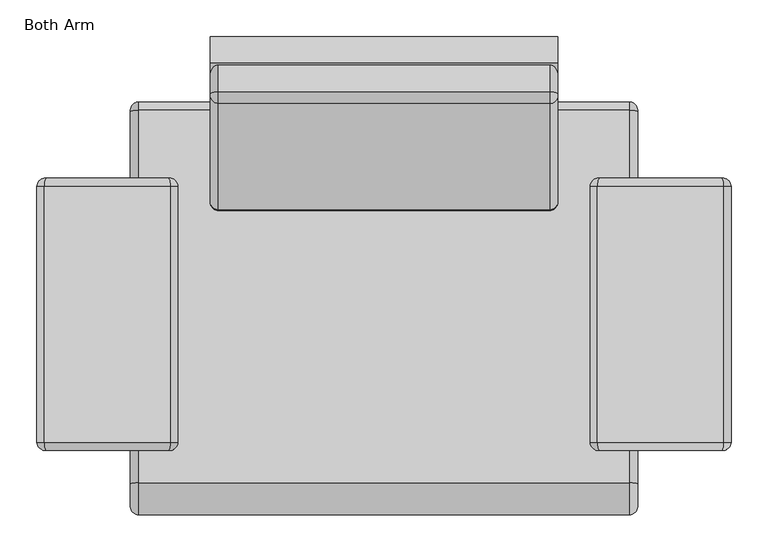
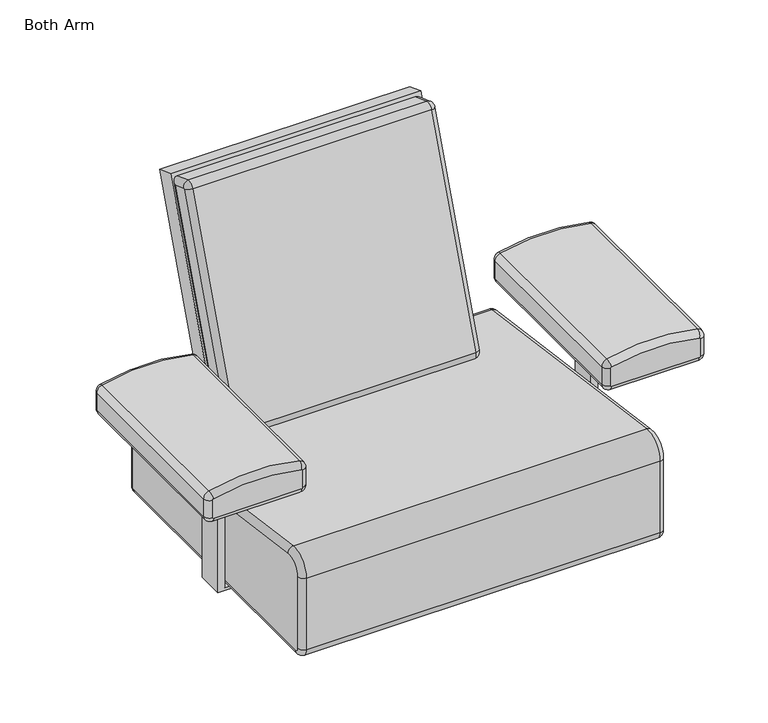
"""IFC4 building model written with IfcOpenShell, lengths in millimetres: furniture geometry, Steelcase Coalesse - Sidewalk - Seating - Collaborative Chair : Both Arm."""

from ifc_helpers import new_model, si_unit, point, frame, origin, place, context, project, spatial, polyline, circle_curve, ellipse_curve, trimmed, outline, extrude, source, transform, mapped, element, save
from ifc_brep_helpers import plane_surface, cylinder_surface, revolved_surface, advanced_brep


def both_arm_b7a4a050(model_context):
    return source(origin(), model_context, "Body", "SolidModel", [
        advanced_brep(
        [(122.9089794, 412.7742549, 335.1190448), (122.9089794, 414.1472627, 333.546102), (122.9089794, 414.1472627, 228.6), (122.9089794, 412.5597627, 227.0125), (122.9089794, -114.4902373, 227.0125), (122.9089794, -122.4277373, 234.95), (122.9089794, -122.4277373, 377.1837519), (122.9089794, -91.7938701, 403.9237811), (808.7089794, -91.7938701, 403.9237811), (808.7089794, -122.4277373, 377.1837519), (808.7089794, -122.4277373, 234.95), (808.7089794, -114.4902373, 227.0125), (808.7089794, 412.5597627, 227.0125), (808.7089794, 414.1472627, 228.6), (808.7089794, 414.1472627, 333.546102), (808.7089794, 412.7742549, 335.1190448), (797.5964794, -90.2924248, 414.9343814), (797.5964794, 414.2757002, 346.1296451), (134.0214794, 414.2757002, 346.1296451), (134.0214794, -90.2924248, 414.9343814), (797.5964794, 425.2597627, 333.546102), (134.0214794, 425.2597627, 333.546102), (797.5964794, 425.2597627, 228.6), (134.0214794, 425.2597627, 228.6), (797.5964794, 412.5597627, 215.9), (134.0214794, 412.5597627, 215.9), (797.5964794, -114.4902373, 215.9), (134.0214794, -114.4902373, 215.9), (797.5964794, -133.5402373, 234.95), (134.0214726, -133.5402373, 234.95), (797.5964794, -133.5402373, 377.1837519), (134.0214794, -133.5402373, 377.1837519)],
        [
            (0, 1, circle_curve(frame((122.9089794, 412.5597627, 333.546102), z_axis=(-1.0, 0.0, 0.0), x_axis=(0.0, 0.13511318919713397, 0.9908301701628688)), 1.5875)),
            (1, 2),
            (2, 3, circle_curve(frame((122.9089794, 412.5597627, 228.6), z_axis=(-1.0, 0.0, 0.0), x_axis=(0.0, 1.0, 0.0)), 1.5875)),
            (3, 4),
            (4, 5, circle_curve(frame((122.9089794, -114.4902373, 234.95), z_axis=(-1.0, 0.0, 0.0), x_axis=(0.0, 0.0, -1.0)), 7.9375)),
            (5, 6),
            (6, 7, circle_curve(frame((122.9089794, -95.4402373, 377.1837519), z_axis=(-1.0, 0.0, 0.0), x_axis=(0.0, -1.0, 0.0)), 26.9875)),
            (7, 0),
            (8, 9, circle_curve(frame((808.7089794, -95.4402373, 377.1837519), z_axis=(1.0, 0.0, 0.0), x_axis=(0.0, 0.13511318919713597, 0.9908301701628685)), 26.9875)),
            (9, 10),
            (10, 11, circle_curve(frame((808.7089794, -114.4902373, 234.95), z_axis=(1.0, 0.0, 0.0), x_axis=(0.0, -1.0, 0.0)), 7.9375)),
            (11, 12),
            (12, 13, circle_curve(frame((808.7089794, 412.5597627, 228.6), z_axis=(1.0, 0.0, 0.0), x_axis=(0.0, 0.0, -1.0)), 1.5875)),
            (13, 14),
            (14, 15, circle_curve(frame((808.7089794, 412.5597627, 333.546102), z_axis=(1.0, 0.0, 0.0), x_axis=(0.0, 1.0, 0.0)), 1.5875)),
            (15, 8),
            (16, 17),
            (17, 18),
            (18, 19),
            (19, 16),
            (17, 20, circle_curve(frame((797.5964794, 412.5597627, 333.546102), z_axis=(-1.0, 0.0, 0.0), x_axis=(0.0, -1.0, 0.0)), 12.7)),
            (20, 21),
            (21, 18, circle_curve(frame((134.0214794, 412.5597627, 333.546102), z_axis=(1.0, 0.0, 0.0), x_axis=(0.0, -1.0, 0.0)), 12.7)),
            (20, 22),
            (22, 23),
            (23, 21),
            (22, 24, circle_curve(frame((797.5964794, 412.5597627, 228.6), z_axis=(-1.0, 0.0, 0.0), x_axis=(0.0, -1.0, 0.0)), 12.7)),
            (24, 25),
            (25, 23, circle_curve(frame((134.0214794, 412.5597627, 228.6), z_axis=(1.0, 0.0, 0.0), x_axis=(0.0, -1.0, 0.0)), 12.7)),
            (24, 26),
            (26, 27),
            (27, 25),
            (26, 28, circle_curve(frame((797.5964794, -114.4902373, 234.95), z_axis=(-1.0, 0.0, 0.0), x_axis=(0.0, -1.0, 0.0)), 19.05)),
            (28, 29),
            (29, 27, circle_curve(frame((134.0214794, -114.4902373, 234.95), z_axis=(1.0, 0.0, 0.0), x_axis=(0.0, -1.0, 0.0)), 19.05)),
            (28, 30),
            (30, 31),
            (31, 29),
            (30, 16, circle_curve(frame((797.5964794, -95.4402373, 377.1837519), z_axis=(-1.0, 0.0, 0.0), x_axis=(0.0, -1.0, 0.0)), 38.1)),
            (19, 31, circle_curve(frame((134.0214794, -95.4402373, 377.1837519), z_axis=(1.0, 0.0, 0.0), x_axis=(0.0, -1.0, 0.0)), 38.1)),
            (30, 9, circle_curve(frame((797.5964794, -122.4277373, 377.1837519), z_axis=(0.0, 0.0, 0.9999999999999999), x_axis=(0.0, -0.9999999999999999, 0.0)), 11.1125)),
            (8, 16, circle_curve(frame((797.5964794, -91.7938701, 403.9237811), z_axis=(0.0, -0.9908301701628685, 0.13511318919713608), x_axis=(0.0, 0.13511318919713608, 0.9908301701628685)), 11.1125)),
            (28, 10, circle_curve(frame((797.5964794, -122.4277373, 234.95), z_axis=(0.0, 0.0, 1.0), x_axis=(0.0, -1.0, 0.0)), 11.1125)),
            (26, 11, circle_curve(frame((797.5964794, -114.4902373, 227.0125), z_axis=(0.0, -1.0, 0.0), x_axis=(0.0, 0.0, -1.0)), 11.1125)),
            (24, 12, circle_curve(frame((797.5964794, 412.5597627, 227.0125), z_axis=(0.0, -1.0, 0.0), x_axis=(0.0, 0.0, -1.0)), 11.1125)),
            (22, 13, circle_curve(frame((797.5964794, 414.1472627, 228.6), z_axis=(0.0, 0.0, -1.0), x_axis=(0.0, 1.0, 0.0)), 11.1125)),
            (20, 14, circle_curve(frame((797.5964794, 414.1472627, 333.546102), z_axis=(0.0, 0.0, -1.0), x_axis=(0.0, 1.0, 0.0)), 11.1125)),
            (17, 15, circle_curve(frame((797.5964794, 412.7742549, 335.1190448), z_axis=(0.0, 0.9908301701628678, -0.1351131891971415), x_axis=(0.0, 0.1351131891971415, 0.9908301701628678)), 11.1125)),
            (21, 1, circle_curve(frame((134.0214794, 414.1472627, 333.546102), z_axis=(0.0, 0.0, 1.0), x_axis=(0.0, -1.0, 0.0)), 11.1125)),
            (0, 18, circle_curve(frame((134.0214794, 412.7742549, 335.1190448), z_axis=(0.0, 0.9908301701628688, -0.13511318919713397), x_axis=(0.0, -0.13511318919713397, -0.9908301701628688)), 11.1125)),
            (23, 2, circle_curve(frame((134.0214794, 414.1472627, 228.6), z_axis=(0.0, 0.0, 1.0), x_axis=(0.0, -1.0, 0.0)), 11.1125)),
            (25, 3, circle_curve(frame((134.0214794, 412.5597627, 227.0125), z_axis=(0.0, 1.0, 0.0), x_axis=(0.0, 0.0, 1.0)), 11.1125)),
            (27, 4, circle_curve(frame((134.0214794, -114.4902373, 227.0125), z_axis=(0.0, 1.0, 0.0), x_axis=(0.0, 0.0, 1.0)), 11.1125)),
            (29, 5, circle_curve(frame((134.0214794, -122.4277373, 234.95), z_axis=(0.0, 0.0, -1.0), x_axis=(0.0, 1.0, 0.0)), 11.1125)),
            (31, 6, circle_curve(frame((134.0214794, -122.4277373, 377.1837519), z_axis=(0.0, 0.0, -1.0), x_axis=(0.0, 1.0, 0.0)), 11.1125)),
            (19, 7, circle_curve(frame((134.0214794, -91.7938701, 403.9237811), z_axis=(0.0, -0.9908301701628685, 0.1351131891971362), x_axis=(0.0, -0.1351131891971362, -0.9908301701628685)), 11.1125)),
        ],
        [
            plane_surface(frame((122.9089794, 564.9597627, 325.5818208), z_axis=(-1.0000000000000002, 0.0, 0.0), x_axis=(0.0, 0.9908301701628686, -0.1351131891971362))),
            plane_surface(frame((808.7089794, 564.9597627, 325.5818208), z_axis=(1.0000000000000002, 0.0, 0.0), x_axis=(0.0, -0.9908301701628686, 0.1351131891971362))),
            plane_surface(frame((122.9089794, -90.2924248, 414.9343814), z_axis=(0.0, 0.1351131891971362, 0.9908301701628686), x_axis=(1.0, 0.0, 0.0))),
            cylinder_surface(frame((808.7089794, 412.5597627, 333.546102), z_axis=(-1.0, 0.0, 0.0), x_axis=(0.0, -1.0, 0.0)), 12.7),
            plane_surface(frame((122.9089794, 425.2597627, 333.546102), z_axis=(0.0, 1.0, 0.0), x_axis=(1.0, 0.0, 0.0))),
            cylinder_surface(frame((808.7089794, 412.5597627, 228.6), z_axis=(-1.0, 0.0, 0.0), x_axis=(0.0, -1.0, 0.0)), 12.7),
            plane_surface(frame((122.9089794, 412.5597627, 215.9), z_axis=(0.0, 0.0, -1.0), x_axis=(1.0, 0.0, 0.0))),
            cylinder_surface(frame((808.7089794, -114.4902373, 234.95), z_axis=(-1.0, 0.0, 0.0), x_axis=(0.0, -1.0, 0.0)), 19.05),
            plane_surface(frame((122.9089794, -133.5402373, 234.95), z_axis=(0.0, -1.0, 0.0), x_axis=(1.0, 0.0, 0.0))),
            cylinder_surface(frame((808.7089794, -95.4402373, 377.1837519), z_axis=(-1.0, 0.0, 0.0), x_axis=(0.0, -1.0, 0.0)), 38.1),
            revolved_surface(trimmed(ellipse_curve(frame((797.5964794, -91.7938701, 403.9237811), z_axis=(0.0, 0.9908301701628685, -0.13511318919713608), x_axis=(0.0, 0.13511318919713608, 0.9908301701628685)), 11.1125, 11.1125), [point((797.5964794, -90.2924248, 414.9343814))], [point((808.7089794, -91.7938701, 403.9237811))], True, "CARTESIAN"), (808.7089794, -95.4402373, 377.1837519), (1.0, 0.0, 0.0)),
            cylinder_surface(frame((797.5964794, -122.4277373, 377.1837519), z_axis=(0.0, 0.0, -1.0), x_axis=(0.0, -1.0, 0.0)), 11.1125),
            revolved_surface(trimmed(ellipse_curve(frame((797.5964794, -122.4277373, 234.95), z_axis=(0.0, 0.0, 1.0), x_axis=(0.0, -1.0, 0.0)), 11.1125, 11.1125), [point((797.5964794, -133.5402373, 234.95))], [point((808.7089794, -122.4277373, 234.95))], True, "CARTESIAN"), (808.7089794, -114.4902373, 234.95), (1.0, 0.0, 0.0)),
            cylinder_surface(frame((797.5964794, -114.4902373, 227.0125), z_axis=(0.0, 1.0, 0.0), x_axis=(0.0, 0.0, -1.0)), 11.1125),
            revolved_surface(trimmed(ellipse_curve(frame((797.5964794, 412.5597627, 227.0125), z_axis=(0.0, -1.0, 0.0), x_axis=(0.0, 0.0, -1.0)), 11.1125, 11.1125), [point((797.5964794, 412.5597627, 215.9))], [point((808.7089794, 412.5597627, 227.0125))], True, "CARTESIAN"), (808.7089794, 412.5597627, 228.6), (1.0, 0.0, 0.0)),
            cylinder_surface(frame((797.5964794, 414.1472627, 228.6), z_axis=(0.0, 0.0, 1.0), x_axis=(0.0, 1.0, 0.0)), 11.1125),
            revolved_surface(trimmed(ellipse_curve(frame((797.5964794, 414.1472627, 333.546102), z_axis=(0.0, 0.0, -1.0), x_axis=(0.0, 1.0, 0.0)), 11.1125, 11.1125), [point((797.5964794, 425.2597627, 333.546102))], [point((808.7089794, 414.1472627, 333.546102))], True, "CARTESIAN"), (808.7089794, 412.5597627, 333.546102), (1.0, 0.0, 0.0)),
            cylinder_surface(frame((797.5964794, 412.7742549, 335.1190448), z_axis=(0.0, -0.9908301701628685, 0.13511318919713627), x_axis=(0.0, 0.13511318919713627, 0.9908301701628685)), 11.1125),
            revolved_surface(trimmed(ellipse_curve(frame((134.0214794, 412.7742549, 335.1190448), z_axis=(0.0, -0.9908301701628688, 0.13511318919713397), x_axis=(0.0, -0.13511318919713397, -0.9908301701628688)), 11.1125, 11.1125), [point((134.0214794, 414.2757002, 346.1296451))], [point((122.9089794, 412.7742549, 335.1190448))], True, "CARTESIAN"), (122.9089794, 412.5597627, 333.546102), (-1.0, 0.0, 0.0)),
            cylinder_surface(frame((134.0214794, 414.1472627, 333.546102), z_axis=(0.0, 0.0, -1.0), x_axis=(0.0, -1.0, 0.0)), 11.1125),
            revolved_surface(trimmed(ellipse_curve(frame((134.0214794, 414.1472627, 228.6), z_axis=(0.0, 0.0, 1.0), x_axis=(0.0, -1.0, 0.0)), 11.1125, 11.1125), [point((134.0214794, 425.2597627, 228.6))], [point((122.9089794, 414.1472627, 228.6))], True, "CARTESIAN"), (122.9089794, 412.5597627, 228.6), (-1.0, 0.0, 0.0)),
            cylinder_surface(frame((134.0214794, 412.5597627, 227.0125), z_axis=(0.0, -1.0, 0.0), x_axis=(0.0, 0.0, 1.0)), 11.1125),
            revolved_surface(trimmed(ellipse_curve(frame((134.0214794, -114.4902373, 227.0125), z_axis=(0.0, 1.0, 0.0), x_axis=(0.0, 0.0, 1.0)), 11.1125, 11.1125), [point((134.0214794, -114.4902373, 215.9))], [point((122.9089794, -114.4902373, 227.0125))], True, "CARTESIAN"), (122.9089794, -114.4902373, 234.95), (-1.0, 0.0, 0.0)),
            cylinder_surface(frame((134.0214794, -122.4277373, 234.95), z_axis=(0.0, 0.0, 1.0), x_axis=(0.0, 1.0, 0.0)), 11.1125),
            revolved_surface(trimmed(ellipse_curve(frame((134.0214794, -122.4277373, 377.1837519), z_axis=(0.0, 0.0, -1.0), x_axis=(0.0, 1.0, 0.0)), 11.1125, 11.1125), [point((134.0214794, -133.5402373, 377.1837519))], [point((122.9089794, -122.4277373, 377.1837519))], True, "CARTESIAN"), (122.9089794, -95.4402373, 377.1837519), (-1.0, 0.0, 0.0)),
            cylinder_surface(frame((134.0214794, -91.7938701, 403.9237811), z_axis=(0.0, 0.9908301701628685, -0.1351131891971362), x_axis=(0.0, -0.1351131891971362, -0.9908301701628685)), 11.1125),
        ],
        [
            (0, [[1, 2, 3, 4, 5, 6, 7, 8]]),
            (1, [[9, 10, 11, 12, 13, 14, 15, 16]]),
            (2, [[17, 18, 19, 20]]),
            (3, [[21, 22, 23, -18]]),
            (4, [[24, 25, 26, -22]]),
            (5, [[27, 28, 29, -25]]),
            (6, [[30, 31, 32, -28]]),
            (7, [[33, 34, 35, -31]]),
            (8, [[36, 37, 38, -34]]),
            (9, [[39, -20, 40, -37]]),
            (10, [[41, -9, 42, -39]]),
            (11, [[-41, -36, 43, -10]]),
            (12, [[-43, -33, 44, -11]]),
            (13, [[-44, -30, 45, -12]]),
            (14, [[-45, -27, 46, -13]]),
            (15, [[-46, -24, 47, -14]]),
            (16, [[-47, -21, 48, -15]]),
            (17, [[-42, -16, -48, -17]]),
            (18, [[49, -1, 50, -23]]),
            (19, [[-49, -26, 51, -2]]),
            (20, [[-51, -29, 52, -3]]),
            (21, [[-52, -32, 53, -4]]),
            (22, [[-53, -35, 54, -5]]),
            (23, [[-54, -38, 55, -6]]),
            (24, [[-55, -40, 56, -7]]),
            (25, [[-50, -8, -56, -19]]),
        ],
    ),
        advanced_brep(
        [(923.9725321, -46.3480901, 523.5679776), (922.7611862, -46.3480901, 525.1102695), (756.908878, -46.3480901, 525.1102695), (755.6975321, -46.3480901, 523.5679776), (755.6975321, -46.3480901, 488.95), (757.2850321, -46.3480901, 487.3625), (922.3850321, -46.3480901, 487.3625), (923.9725321, -46.3480901, 488.95), (755.6975321, 321.9519099, 523.5679776), (756.908878, 321.9519099, 525.1102695), (922.7611862, 321.9519099, 525.1102695), (923.9725321, 321.9519099, 523.5679776), (923.9725321, 321.9519099, 488.95), (922.3850321, 321.9519099, 487.3625), (757.2850321, 321.9519099, 487.3625), (755.6975321, 321.9519099, 488.95), (922.3850321, -35.2355901, 476.25), (757.2850321, -35.2355901, 476.25), (757.2850321, 310.8394099, 476.25), (922.3850321, 310.8394099, 476.25), (935.0850321, -35.2355901, 488.95), (935.0850321, 310.8394099, 488.95), (935.0850321, -35.2355901, 523.5679776), (935.0850321, 310.8394099, 523.5679776), (925.394265, -35.2355901, 535.9063129), (925.394265, 310.8394099, 535.9063129), (754.2757993, -35.2355901, 535.9063129), (754.2757993, 310.8394099, 535.9063129), (744.5850321, -35.2355901, 523.5679776), (744.5850321, 310.8394099, 523.5679776), (744.5850321, -35.2355901, 488.95), (744.5850321, 310.8394099, 488.95)],
        [
            (0, 1, circle_curve(frame((922.3850321, -46.3480901, 523.5679776), z_axis=(0.0, -1.0, 0.0), x_axis=(0.23694746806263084, 0.0, 0.9715224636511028)), 1.5875)),
            (1, 2, circle_curve(frame((839.8350321, -46.3480901, 185.0997929), z_axis=(0.0, -1.0, 0.0), x_axis=(-0.23694746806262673, 0.0, 0.971522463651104)), 349.9769581)),
            (2, 3, circle_curve(frame((757.2850321, -46.3480901, 523.5679776), z_axis=(0.0, -1.0, 0.0), x_axis=(-1.0, 0.0, 0.0)), 1.5875)),
            (3, 4),
            (4, 5, circle_curve(frame((757.2850321, -46.3480901, 488.95), z_axis=(0.0, -1.0, 0.0), x_axis=(0.0, 0.0, -1.0)), 1.5875)),
            (5, 6),
            (6, 7, circle_curve(frame((922.3850321, -46.3480901, 488.95), z_axis=(0.0, -1.0, 0.0), x_axis=(1.0, 0.0, 0.0)), 1.5875)),
            (7, 0),
            (8, 9, circle_curve(frame((757.2850321, 321.9519099, 523.5679776), z_axis=(0.0, 1.0, 0.0), x_axis=(-0.2369474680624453, 0.0, 0.9715224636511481)), 1.5875)),
            (9, 10, circle_curve(frame((839.8350321, 321.9519099, 185.0997929), z_axis=(0.0, 1.0, 0.0), x_axis=(0.23694746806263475, 0.0, 0.971522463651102)), 349.9769581)),
            (10, 11, circle_curve(frame((922.3850321, 321.9519099, 523.5679776), z_axis=(0.0, 1.0, 0.0), x_axis=(1.0, 0.0, 0.0)), 1.5875)),
            (11, 12),
            (12, 13, circle_curve(frame((922.3850321, 321.9519099, 488.95), z_axis=(0.0, 1.0, 0.0), x_axis=(0.0, 0.0, -1.0)), 1.5875)),
            (13, 14),
            (14, 15, circle_curve(frame((757.2850321, 321.9519099, 488.95), z_axis=(0.0, 1.0, 0.0), x_axis=(-1.0, 0.0, 0.0)), 1.5875)),
            (15, 8),
            (16, 17),
            (17, 18),
            (18, 19),
            (19, 16),
            (20, 16, circle_curve(frame((922.3850321, -35.2355901, 488.95), z_axis=(0.0, 1.0, 0.0), x_axis=(-1.0, 0.0, 0.0)), 12.7)),
            (19, 21, circle_curve(frame((922.3850321, 310.8394099, 488.95), z_axis=(0.0, -1.0, 0.0), x_axis=(-1.0, 0.0, 0.0)), 12.7)),
            (21, 20),
            (22, 20),
            (21, 23),
            (23, 22),
            (24, 22, circle_curve(frame((922.3850321, -35.2355901, 523.5679776), z_axis=(0.0, 1.0, 0.0), x_axis=(-1.0, 0.0, 0.0)), 12.7)),
            (23, 25, circle_curve(frame((922.3850321, 310.8394099, 523.5679776), z_axis=(0.0, -1.0, 0.0), x_axis=(-1.0, 0.0, 0.0)), 12.7)),
            (25, 24),
            (26, 24, circle_curve(frame((839.8350321, -35.2355901, 185.0997929), z_axis=(0.0, 1.0, 0.0), x_axis=(-1.0, 0.0, 0.0)), 361.0894581)),
            (25, 27, circle_curve(frame((839.8350321, 310.8394099, 185.0997929), z_axis=(0.0, -1.0, 0.0), x_axis=(-1.0, 0.0, 0.0)), 361.0894581)),
            (27, 26),
            (28, 26, circle_curve(frame((757.2850321, -35.2355901, 523.5679776), z_axis=(0.0, 1.0, 0.0), x_axis=(-1.0, 0.0, 0.0)), 12.7)),
            (27, 29, circle_curve(frame((757.2850321, 310.8394099, 523.5679776), z_axis=(0.0, -1.0, 0.0), x_axis=(-1.0, 0.0, 0.0)), 12.7)),
            (29, 28),
            (30, 28),
            (29, 31),
            (31, 30),
            (17, 30, circle_curve(frame((757.2850321, -35.2355901, 488.95), z_axis=(0.0, 1.0, 0.0), x_axis=(-1.0, 0.0, 0.0)), 12.7)),
            (31, 18, circle_curve(frame((757.2850321, 310.8394099, 488.95), z_axis=(0.0, -1.0, 0.0), x_axis=(-1.0, 0.0, 0.0)), 12.7)),
            (0, 22, circle_curve(frame((923.9725321, -35.2355901, 523.5679776), z_axis=(0.0, 0.0, 1.0), x_axis=(-1.0, 0.0, 0.0)), 11.1125)),
            (24, 1, circle_curve(frame((922.7611862, -35.2355901, 525.1102695), z_axis=(0.9715224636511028, 0.0, -0.23694746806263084), x_axis=(-0.23694746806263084, 0.0, -0.9715224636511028)), 11.1125)),
            (7, 20, circle_curve(frame((923.9725321, -35.2355901, 488.95), z_axis=(0.0, 0.0, 1.0), x_axis=(-1.0, 0.0, 0.0)), 11.1125)),
            (6, 16, circle_curve(frame((922.3850321, -35.2355901, 487.3625), z_axis=(1.0, 0.0, 0.0), x_axis=(0.0, 0.0, 1.0)), 11.1125)),
            (5, 17, circle_curve(frame((757.2850321, -35.2355901, 487.3625), z_axis=(1.0, 0.0, 0.0), x_axis=(0.0, 0.0, 1.0)), 11.1125)),
            (4, 30, circle_curve(frame((755.6975321, -35.2355901, 488.95), z_axis=(0.0, 0.0, -1.0), x_axis=(1.0, 0.0, 0.0)), 11.1125)),
            (3, 28, circle_curve(frame((755.6975321, -35.2355901, 523.5679776), z_axis=(0.0, 0.0, -1.0), x_axis=(1.0, 0.0, 0.0)), 11.1125)),
            (2, 26, circle_curve(frame((756.908878, -35.2355901, 525.1102695), z_axis=(-0.9715224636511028, 0.0, -0.23694746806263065), x_axis=(0.23694746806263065, 0.0, -0.9715224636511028)), 11.1125)),
            (8, 29, circle_curve(frame((755.6975321, 310.8394099, 523.5679776), z_axis=(0.0, 0.0, 1.0), x_axis=(-1.0, 0.0, 0.0)), 11.1125)),
            (27, 9, circle_curve(frame((756.908878, 310.8394099, 525.1102695), z_axis=(-0.9715224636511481, 0.0, -0.23694746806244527), x_axis=(-0.23694746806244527, 0.0, 0.9715224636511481)), 11.1125)),
            (15, 31, circle_curve(frame((755.6975321, 310.8394099, 488.95), z_axis=(0.0, 0.0, 1.0), x_axis=(-1.0, 0.0, 0.0)), 11.1125)),
            (14, 18, circle_curve(frame((757.2850321, 310.8394099, 487.3625), z_axis=(-1.0, 0.0, 0.0), x_axis=(0.0, 0.0, -1.0)), 11.1125)),
            (13, 19, circle_curve(frame((922.3850321, 310.8394099, 487.3625), z_axis=(-1.0, 0.0, 0.0), x_axis=(0.0, 0.0, -1.0)), 11.1125)),
            (12, 21, circle_curve(frame((923.9725321, 310.8394099, 488.95), z_axis=(0.0, 0.0, -1.0), x_axis=(1.0, 0.0, 0.0)), 11.1125)),
            (11, 23, circle_curve(frame((923.9725321, 310.8394099, 523.5679776), z_axis=(0.0, 0.0, -1.0), x_axis=(1.0, 0.0, 0.0)), 11.1125)),
            (10, 25, circle_curve(frame((922.7611862, 310.8394099, 525.1102695), z_axis=(0.9715224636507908, 0.0, -0.23694746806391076), x_axis=(0.23694746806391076, 0.0, 0.9715224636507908)), 11.1125)),
        ],
        [
            plane_surface(frame((935.0850321, -46.3480901, 476.25), z_axis=(0.0, -1.0, 0.0), x_axis=(1.0, 0.0, 0.0))),
            plane_surface(frame((935.0850321, 321.9519099, 476.25), z_axis=(0.0, 1.0, 0.0), x_axis=(-1.0, 0.0, 0.0))),
            plane_surface(frame((757.2850321, -46.3480901, 476.25), z_axis=(0.0, 0.0, -1.0), x_axis=(0.0, 1.0, 0.0))),
            cylinder_surface(frame((922.3850321, 321.9519099, 488.95), z_axis=(0.0, -1.0, 0.0), x_axis=(-1.0, 0.0, 0.0)), 12.7),
            plane_surface(frame((935.0850321, -46.3480901, 488.95), z_axis=(1.0, 0.0, 0.0), x_axis=(0.0, 1.0, 0.0))),
            cylinder_surface(frame((922.3850321, 321.9519099, 523.5679776), z_axis=(0.0, -1.0, 0.0), x_axis=(-1.0, 0.0, 0.0)), 12.7),
            cylinder_surface(frame((839.8350321, 321.9519099, 185.0997929), z_axis=(0.0, -1.0, 0.0), x_axis=(-1.0, 0.0, 0.0)), 361.0894581),
            cylinder_surface(frame((757.2850321, 321.9519099, 523.5679776), z_axis=(0.0, -1.0, 0.0), x_axis=(-1.0, 0.0, 0.0)), 12.7),
            plane_surface(frame((744.5850321, -46.3480901, 523.5679776), z_axis=(-1.0, 0.0, 0.0), x_axis=(0.0, 1.0, 0.0))),
            cylinder_surface(frame((757.2850321, 321.9519099, 488.95), z_axis=(0.0, -1.0, 0.0), x_axis=(-1.0, 0.0, 0.0)), 12.7),
            revolved_surface(trimmed(ellipse_curve(frame((922.7611862, -35.2355901, 525.1102695), z_axis=(-0.9715224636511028, 0.0, 0.23694746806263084), x_axis=(-0.23694746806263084, 0.0, -0.9715224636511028)), 11.1125, 11.1125), [point((922.7611862, -46.3480901, 525.1102695))], [point((925.394265, -35.2355901, 535.9063129))], True, "CARTESIAN"), (922.3850321, -46.3480901, 523.5679776), (0.0, 1.0, 0.0)),
            cylinder_surface(frame((923.9725321, -35.2355901, 523.5679776), z_axis=(0.0, 0.0, -1.0), x_axis=(-1.0, 0.0, 0.0)), 11.1125),
            revolved_surface(trimmed(ellipse_curve(frame((923.9725321, -35.2355901, 488.95), z_axis=(0.0, 0.0, 1.0), x_axis=(-1.0, 0.0, 0.0)), 11.1125, 11.1125), [point((923.9725321, -46.3480901, 488.95))], [point((935.0850321, -35.2355901, 488.95))], True, "CARTESIAN"), (922.3850321, -46.3480901, 488.95), (0.0, 1.0, 0.0)),
            cylinder_surface(frame((922.3850321, -35.2355901, 487.3625), z_axis=(-1.0, 0.0, 0.0), x_axis=(0.0, 0.0, 1.0)), 11.1125),
            revolved_surface(trimmed(ellipse_curve(frame((757.2850321, -35.2355901, 487.3625), z_axis=(1.0, 0.0, 0.0), x_axis=(0.0, 0.0, 1.0)), 11.1125, 11.1125), [point((757.2850321, -46.3480901, 487.3625))], [point((757.2850321, -35.2355901, 476.25))], True, "CARTESIAN"), (757.2850321, -46.3480901, 488.95), (0.0, 1.0, 0.0)),
            cylinder_surface(frame((755.6975321, -35.2355901, 488.95), z_axis=(0.0, 0.0, 1.0), x_axis=(1.0, 0.0, 0.0)), 11.1125),
            revolved_surface(trimmed(ellipse_curve(frame((755.6975321, -35.2355901, 523.5679776), z_axis=(0.0, 0.0, -1.0), x_axis=(1.0, 0.0, 0.0)), 11.1125, 11.1125), [point((755.6975321, -46.3480901, 523.5679776))], [point((744.5850321, -35.2355901, 523.5679776))], True, "CARTESIAN"), (757.2850321, -46.3480901, 523.5679776), (0.0, 1.0, 0.0)),
            revolved_surface(trimmed(ellipse_curve(frame((756.908878, -35.2355901, 525.1102695), z_axis=(-0.971522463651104, 0.0, -0.23694746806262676), x_axis=(0.23694746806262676, 0.0, -0.971522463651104)), 11.1125, 11.1125), [point((756.908878, -46.3480901, 525.1102695))], [point((754.2757993, -35.2355901, 535.9063129))], True, "CARTESIAN"), (839.8350321, -46.3480901, 185.0997929), (0.0, 1.0, 0.0)),
            revolved_surface(trimmed(ellipse_curve(frame((756.908878, 310.8394099, 525.1102695), z_axis=(0.9715224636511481, 0.0, 0.23694746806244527), x_axis=(-0.23694746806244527, 0.0, 0.9715224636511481)), 11.1125, 11.1125), [point((756.908878, 321.9519099, 525.1102695))], [point((754.2757993, 310.8394099, 535.9063129))], True, "CARTESIAN"), (757.2850321, 321.9519099, 523.5679776), (0.0, -1.0, 0.0)),
            cylinder_surface(frame((755.6975321, 310.8394099, 523.5679776), z_axis=(0.0, 0.0, -1.0), x_axis=(-1.0, 0.0, 0.0)), 11.1125),
            revolved_surface(trimmed(ellipse_curve(frame((755.6975321, 310.8394099, 488.95), z_axis=(0.0, 0.0, 1.0), x_axis=(-1.0, 0.0, 0.0)), 11.1125, 11.1125), [point((755.6975321, 321.9519099, 488.95))], [point((744.5850321, 310.8394099, 488.95))], True, "CARTESIAN"), (757.2850321, 321.9519099, 488.95), (0.0, -1.0, 0.0)),
            cylinder_surface(frame((757.2850321, 310.8394099, 487.3625), z_axis=(1.0, 0.0, 0.0), x_axis=(0.0, 0.0, -1.0)), 11.1125),
            revolved_surface(trimmed(ellipse_curve(frame((922.3850321, 310.8394099, 487.3625), z_axis=(-1.0, 0.0, 0.0), x_axis=(0.0, 0.0, -1.0)), 11.1125, 11.1125), [point((922.3850321, 321.9519099, 487.3625))], [point((922.3850321, 310.8394099, 476.25))], True, "CARTESIAN"), (922.3850321, 321.9519099, 488.95), (0.0, -1.0, 0.0)),
            cylinder_surface(frame((923.9725321, 310.8394099, 488.95), z_axis=(0.0, 0.0, 1.0), x_axis=(1.0, 0.0, 0.0)), 11.1125),
            revolved_surface(trimmed(ellipse_curve(frame((923.9725321, 310.8394099, 523.5679776), z_axis=(0.0, 0.0, -1.0), x_axis=(1.0, 0.0, 0.0)), 11.1125, 11.1125), [point((923.9725321, 321.9519099, 523.5679776))], [point((935.0850321, 310.8394099, 523.5679776))], True, "CARTESIAN"), (922.3850321, 321.9519099, 523.5679776), (0.0, -1.0, 0.0)),
            revolved_surface(trimmed(ellipse_curve(frame((922.7611862, 310.8394099, 525.1102695), z_axis=(0.971522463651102, 0.0, -0.2369474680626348), x_axis=(0.2369474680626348, 0.0, 0.971522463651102)), 11.1125, 11.1125), [point((922.7611862, 321.9519099, 525.1102695))], [point((925.394265, 310.8394099, 535.9063129))], True, "CARTESIAN"), (839.8350321, 321.9519099, 185.0997929), (0.0, -1.0, 0.0)),
        ],
        [
            (0, [[1, 2, 3, 4, 5, 6, 7, 8]]),
            (1, [[9, 10, 11, 12, 13, 14, 15, 16]]),
            (2, [[17, 18, 19, 20]]),
            (3, [[21, -20, 22, 23]]),
            (4, [[24, -23, 25, 26]]),
            (5, [[27, -26, 28, 29]]),
            (6, [[30, -29, 31, 32]]),
            (7, [[33, -32, 34, 35]]),
            (8, [[36, -35, 37, 38]]),
            (9, [[39, -38, 40, -18]]),
            (10, [[41, -27, 42, -1]]),
            (11, [[-41, -8, 43, -24]]),
            (12, [[-43, -7, 44, -21]]),
            (13, [[-44, -6, 45, -17]]),
            (14, [[-45, -5, 46, -39]]),
            (15, [[-46, -4, 47, -36]]),
            (16, [[-47, -3, 48, -33]]),
            (17, [[-42, -30, -48, -2]]),
            (18, [[49, -34, 50, -9]]),
            (19, [[-49, -16, 51, -37]]),
            (20, [[-51, -15, 52, -40]]),
            (21, [[-52, -14, 53, -19]]),
            (22, [[-53, -13, 54, -22]]),
            (23, [[-54, -12, 55, -25]]),
            (24, [[-55, -11, 56, -28]]),
            (25, [[-50, -31, -56, -10]]),
        ],
    ),
        extrude(outline(polyline([(207.2866207, 822.6014668), (476.25, 822.6014668), (476.25, 809.9014668), (213.6366207, 809.9014668), (213.6366207, 733.7014668), (207.2866207, 733.7014668), (207.2866207, 822.6014668)])), frame((0.0, 112.4019099, 0.0), z_axis=(0.0, 1.0, 0.0), x_axis=(0.0, 0.0, 1.0)), (0.0, 0.0, 1.0), 50.8),
        advanced_brep(
        [(8.8567727, -46.3480901, 525.1102695), (7.6454268, -46.3480901, 523.5679776), (7.6454268, -46.3480901, 488.95), (9.2329268, -46.3480901, 487.3625), (174.3329268, -46.3480901, 487.3625), (175.9204268, -46.3480901, 488.95), (175.9204268, -46.3480901, 523.5679776), (174.7090809, -46.3480901, 525.1102695), (174.7090809, 321.9519099, 525.1102695), (175.9204268, 321.9519099, 523.5679776), (175.9204268, 321.9519099, 488.95), (174.3329268, 321.9519099, 487.3625), (9.2329268, 321.9519099, 487.3625), (7.6454268, 321.9519099, 488.95), (7.6454268, 321.9519099, 523.5679776), (8.8567727, 321.9519099, 525.1102695), (174.3329268, 310.8394099, 476.25), (187.0329268, 310.8394099, 488.95), (187.0329268, -35.2355901, 488.95), (174.3329268, -35.2355901, 476.25), (187.0329268, 310.8394099, 523.5679776), (187.0329268, -35.2355901, 523.5679776), (177.3421596, 310.8394099, 535.9063129), (177.3421596, -35.2355901, 535.9063129), (6.2236939, 310.8394099, 535.9063129), (6.2236939, -35.2355901, 535.9063129), (-3.4670732, 310.8394099, 523.5679776), (-3.4670732, -35.2355901, 523.5679776), (-3.4670732, 310.8394099, 488.95), (-3.4670732, -35.2355901, 488.95), (9.2329268, 310.8394099, 476.25), (9.2329268, -35.2355901, 476.25)],
        [
            (0, 1, circle_curve(frame((9.2329268, -46.3480901, 523.5679776), z_axis=(0.0, -1.0, 0.0), x_axis=(-0.23694746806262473, 0.0, 0.9715224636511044)), 1.5875)),
            (1, 2),
            (2, 3, circle_curve(frame((9.2329268, -46.3480901, 488.95), z_axis=(0.0, -1.0, 0.0), x_axis=(-1.0, 0.0, 0.0)), 1.5875)),
            (3, 4),
            (4, 5, circle_curve(frame((174.3329268, -46.3480901, 488.95), z_axis=(0.0, -1.0, 0.0), x_axis=(0.0, 0.0, -1.0)), 1.5875)),
            (5, 6),
            (6, 7, circle_curve(frame((174.3329268, -46.3480901, 523.5679776), z_axis=(0.0, -1.0, 0.0), x_axis=(1.0, 0.0, 0.0)), 1.5875)),
            (7, 0, circle_curve(frame((91.7829268, -46.3480901, 185.0997929), z_axis=(0.0, -1.0, 0.0), x_axis=(0.2369474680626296, 0.0, 0.9715224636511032)), 349.9769581)),
            (8, 9, circle_curve(frame((174.3329268, 321.9519099, 523.5679776), z_axis=(0.0, 1.0, 0.0), x_axis=(0.23694746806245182, 0.0, 0.9715224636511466)), 1.5875)),
            (9, 10),
            (10, 11, circle_curve(frame((174.3329268, 321.9519099, 488.95), z_axis=(0.0, 1.0, 0.0), x_axis=(1.0, 0.0, 0.0)), 1.5875)),
            (11, 12),
            (12, 13, circle_curve(frame((9.2329268, 321.9519099, 488.95), z_axis=(0.0, 1.0, 0.0), x_axis=(0.0, 0.0, -1.0)), 1.5875)),
            (13, 14),
            (14, 15, circle_curve(frame((9.2329268, 321.9519099, 523.5679776), z_axis=(0.0, 1.0, 0.0), x_axis=(-1.0, 0.0, 0.0)), 1.5875)),
            (15, 8, circle_curve(frame((91.7829268, 321.9519099, 185.0997929), z_axis=(0.0, 1.0, 0.0), x_axis=(-0.23694746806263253, 0.0, 0.9715224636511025)), 349.9769581)),
            (16, 17, circle_curve(frame((174.3329268, 310.8394099, 488.95), z_axis=(0.0, -1.0, 0.0), x_axis=(1.0, 0.0, 0.0)), 12.7)),
            (17, 18),
            (18, 19, circle_curve(frame((174.3329268, -35.2355901, 488.95), z_axis=(0.0, 1.0, 0.0), x_axis=(1.0, 0.0, 0.0)), 12.7)),
            (19, 16),
            (17, 20),
            (20, 21),
            (21, 18),
            (20, 22, circle_curve(frame((174.3329268, 310.8394099, 523.5679776), z_axis=(0.0, -1.0, 0.0), x_axis=(1.0, 0.0, 0.0)), 12.7)),
            (22, 23),
            (23, 21, circle_curve(frame((174.3329268, -35.2355901, 523.5679776), z_axis=(0.0, 1.0, 0.0), x_axis=(1.0, 0.0, 0.0)), 12.7)),
            (22, 24, circle_curve(frame((91.7829268, 310.8394099, 185.0997929), z_axis=(0.0, -1.0, 0.0), x_axis=(1.0, 0.0, 0.0)), 361.0894581)),
            (24, 25),
            (25, 23, circle_curve(frame((91.7829268, -35.2355901, 185.0997929), z_axis=(0.0, 1.0, 0.0), x_axis=(1.0, 0.0, 0.0)), 361.0894581)),
            (24, 26, circle_curve(frame((9.2329268, 310.8394099, 523.5679776), z_axis=(0.0, -1.0, 0.0), x_axis=(1.0, 0.0, 0.0)), 12.7)),
            (26, 27),
            (27, 25, circle_curve(frame((9.2329268, -35.2355901, 523.5679776), z_axis=(0.0, 1.0, 0.0), x_axis=(1.0, 0.0, 0.0)), 12.7)),
            (26, 28),
            (28, 29),
            (29, 27),
            (28, 30, circle_curve(frame((9.2329268, 310.8394099, 488.95), z_axis=(0.0, -1.0, 0.0), x_axis=(1.0, 0.0, 0.0)), 12.7)),
            (30, 31),
            (31, 29, circle_curve(frame((9.2329268, -35.2355901, 488.95), z_axis=(0.0, 1.0, 0.0), x_axis=(1.0, 0.0, 0.0)), 12.7)),
            (30, 16),
            (19, 31),
            (20, 9, circle_curve(frame((175.9204268, 310.8394099, 523.5679776), z_axis=(0.0, 0.0, 1.0), x_axis=(1.0, 0.0, 0.0)), 11.1125)),
            (8, 22, circle_curve(frame((174.7090809, 310.8394099, 525.1102695), z_axis=(0.9715224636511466, 0.0, -0.23694746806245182), x_axis=(0.23694746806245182, 0.0, 0.9715224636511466)), 11.1125)),
            (17, 10, circle_curve(frame((175.9204268, 310.8394099, 488.95), z_axis=(0.0, 0.0, 1.0), x_axis=(1.0, 0.0, 0.0)), 11.1125)),
            (16, 11, circle_curve(frame((174.3329268, 310.8394099, 487.3625), z_axis=(1.0, 0.0, 0.0), x_axis=(0.0, 0.0, -1.0)), 11.1125)),
            (30, 12, circle_curve(frame((9.2329268, 310.8394099, 487.3625), z_axis=(1.0, 0.0, 0.0), x_axis=(0.0, 0.0, -1.0)), 11.1125)),
            (28, 13, circle_curve(frame((7.6454268, 310.8394099, 488.95), z_axis=(0.0, 0.0, -1.0), x_axis=(-1.0, 0.0, 0.0)), 11.1125)),
            (26, 14, circle_curve(frame((7.6454268, 310.8394099, 523.5679776), z_axis=(0.0, 0.0, -1.0), x_axis=(-1.0, 0.0, 0.0)), 11.1125)),
            (24, 15, circle_curve(frame((8.8567727, 310.8394099, 525.1102695), z_axis=(-0.9715224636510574, 0.0, -0.2369474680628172), x_axis=(-0.2369474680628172, 0.0, 0.9715224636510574)), 11.1125)),
            (27, 1, circle_curve(frame((7.6454268, -35.2355901, 523.5679776), z_axis=(0.0, 0.0, 1.0), x_axis=(1.0, 0.0, 0.0)), 11.1125)),
            (0, 25, circle_curve(frame((8.8567727, -35.2355901, 525.1102695), z_axis=(-0.9715224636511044, 0.0, -0.2369474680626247), x_axis=(0.2369474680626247, 0.0, -0.9715224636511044)), 11.1125)),
            (29, 2, circle_curve(frame((7.6454268, -35.2355901, 488.95), z_axis=(0.0, 0.0, 1.0), x_axis=(1.0, 0.0, 0.0)), 11.1125)),
            (31, 3, circle_curve(frame((9.2329268, -35.2355901, 487.3625), z_axis=(-1.0, 0.0, 0.0), x_axis=(0.0, 0.0, 1.0)), 11.1125)),
            (19, 4, circle_curve(frame((174.3329268, -35.2355901, 487.3625), z_axis=(-1.0, 0.0, 0.0), x_axis=(0.0, 0.0, 1.0)), 11.1125)),
            (18, 5, circle_curve(frame((175.9204268, -35.2355901, 488.95), z_axis=(0.0, 0.0, -1.0), x_axis=(-1.0, 0.0, 0.0)), 11.1125)),
            (21, 6, circle_curve(frame((175.9204268, -35.2355901, 523.5679776), z_axis=(0.0, 0.0, -1.0), x_axis=(-1.0, 0.0, 0.0)), 11.1125)),
            (23, 7, circle_curve(frame((174.7090809, -35.2355901, 525.1102695), z_axis=(0.9715224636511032, 0.0, -0.23694746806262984), x_axis=(-0.23694746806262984, 0.0, -0.9715224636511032)), 11.1125)),
        ],
        [
            plane_surface(frame((187.0329268, -46.3480901, 488.95), z_axis=(0.0, -1.0, 0.0), x_axis=(0.0, 0.0, 1.0))),
            plane_surface(frame((187.0329268, 321.9519099, 488.95), z_axis=(0.0, 1.0, 0.0), x_axis=(0.0, 0.0, -1.0))),
            cylinder_surface(frame((174.3329268, 321.9519099, 488.95), z_axis=(0.0, -1.0, 0.0), x_axis=(1.0, 0.0, 0.0)), 12.7),
            plane_surface(frame((187.0329268, -46.3480901, 488.95), z_axis=(1.0, 0.0, 0.0), x_axis=(0.0, 1.0, 0.0))),
            cylinder_surface(frame((174.3329268, 321.9519099, 523.5679776), z_axis=(0.0, -1.0, 0.0), x_axis=(1.0, 0.0, 0.0)), 12.7),
            cylinder_surface(frame((91.7829268, 321.9519099, 185.0997929), z_axis=(0.0, -1.0, 0.0), x_axis=(1.0, 0.0, 0.0)), 361.0894581),
            cylinder_surface(frame((9.2329268, 321.9519099, 523.5679776), z_axis=(0.0, -1.0, 0.0), x_axis=(1.0, 0.0, 0.0)), 12.7),
            plane_surface(frame((-3.4670732, -46.3480901, 523.5679776), z_axis=(-1.0, 0.0, 0.0), x_axis=(0.0, 1.0, 0.0))),
            cylinder_surface(frame((9.2329268, 321.9519099, 488.95), z_axis=(0.0, -1.0, 0.0), x_axis=(1.0, 0.0, 0.0)), 12.7),
            plane_surface(frame((9.2329268, -46.3480901, 476.25), z_axis=(0.0, 0.0, -1.0), x_axis=(0.0, 1.0, 0.0))),
            revolved_surface(trimmed(ellipse_curve(frame((174.7090809, 310.8394099, 525.1102695), z_axis=(-0.9715224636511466, 0.0, 0.23694746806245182), x_axis=(0.23694746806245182, 0.0, 0.9715224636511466)), 11.1125, 11.1125), [point((177.3421596, 310.8394099, 535.9063129))], [point((174.7090809, 321.9519099, 525.1102695))], True, "CARTESIAN"), (174.3329268, 321.9519099, 523.5679776), (0.0, 1.0, 0.0)),
            cylinder_surface(frame((175.9204268, 310.8394099, 523.5679776), z_axis=(0.0, 0.0, -1.0), x_axis=(1.0, 0.0, 0.0)), 11.1125),
            revolved_surface(trimmed(ellipse_curve(frame((175.9204268, 310.8394099, 488.95), z_axis=(0.0, 0.0, 1.0), x_axis=(1.0, 0.0, 0.0)), 11.1125, 11.1125), [point((187.0329268, 310.8394099, 488.95))], [point((175.9204268, 321.9519099, 488.95))], True, "CARTESIAN"), (174.3329268, 321.9519099, 488.95), (0.0, 1.0, 0.0)),
            cylinder_surface(frame((174.3329268, 310.8394099, 487.3625), z_axis=(-1.0, 0.0, 0.0), x_axis=(0.0, 0.0, -1.0)), 11.1125),
            revolved_surface(trimmed(ellipse_curve(frame((9.2329268, 310.8394099, 487.3625), z_axis=(1.0, 0.0, 0.0), x_axis=(0.0, 0.0, -1.0)), 11.1125, 11.1125), [point((9.2329268, 310.8394099, 476.25))], [point((9.2329268, 321.9519099, 487.3625))], True, "CARTESIAN"), (9.2329268, 321.9519099, 488.95), (0.0, 1.0, 0.0)),
            cylinder_surface(frame((7.6454268, 310.8394099, 488.95), z_axis=(0.0, 0.0, 1.0), x_axis=(-1.0, 0.0, 0.0)), 11.1125),
            revolved_surface(trimmed(ellipse_curve(frame((7.6454268, 310.8394099, 523.5679776), z_axis=(0.0, 0.0, -1.0), x_axis=(-1.0, 0.0, 0.0)), 11.1125, 11.1125), [point((-3.4670732, 310.8394099, 523.5679776))], [point((7.6454268, 321.9519099, 523.5679776))], True, "CARTESIAN"), (9.2329268, 321.9519099, 523.5679776), (0.0, 1.0, 0.0)),
            revolved_surface(trimmed(ellipse_curve(frame((8.8567727, 310.8394099, 525.1102695), z_axis=(-0.9715224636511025, 0.0, -0.23694746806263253), x_axis=(-0.23694746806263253, 0.0, 0.9715224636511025)), 11.1125, 11.1125), [point((6.2236939, 310.8394099, 535.9063129))], [point((8.8567727, 321.9519099, 525.1102695))], True, "CARTESIAN"), (91.7829268, 321.9519099, 185.0997929), (0.0, 1.0, 0.0)),
            revolved_surface(trimmed(ellipse_curve(frame((8.8567727, -35.2355901, 525.1102695), z_axis=(0.9715224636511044, 0.0, 0.2369474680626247), x_axis=(0.2369474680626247, 0.0, -0.9715224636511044)), 11.1125, 11.1125), [point((6.2236939, -35.2355901, 535.9063129))], [point((8.8567727, -46.3480901, 525.1102695))], True, "CARTESIAN"), (9.2329268, -46.3480901, 523.5679776), (0.0, -1.0, 0.0)),
            cylinder_surface(frame((7.6454268, -35.2355901, 523.5679776), z_axis=(0.0, 0.0, -1.0), x_axis=(1.0, 0.0, 0.0)), 11.1125),
            revolved_surface(trimmed(ellipse_curve(frame((7.6454268, -35.2355901, 488.95), z_axis=(0.0, 0.0, 1.0), x_axis=(1.0, 0.0, 0.0)), 11.1125, 11.1125), [point((-3.4670732, -35.2355901, 488.95))], [point((7.6454268, -46.3480901, 488.95))], True, "CARTESIAN"), (9.2329268, -46.3480901, 488.95), (0.0, -1.0, 0.0)),
            cylinder_surface(frame((9.2329268, -35.2355901, 487.3625), z_axis=(1.0, 0.0, 0.0), x_axis=(0.0, 0.0, 1.0)), 11.1125),
            revolved_surface(trimmed(ellipse_curve(frame((174.3329268, -35.2355901, 487.3625), z_axis=(-1.0, 0.0, 0.0), x_axis=(0.0, 0.0, 1.0)), 11.1125, 11.1125), [point((174.3329268, -35.2355901, 476.25))], [point((174.3329268, -46.3480901, 487.3625))], True, "CARTESIAN"), (174.3329268, -46.3480901, 488.95), (0.0, -1.0, 0.0)),
            cylinder_surface(frame((175.9204268, -35.2355901, 488.95), z_axis=(0.0, 0.0, 1.0), x_axis=(-1.0, 0.0, 0.0)), 11.1125),
            revolved_surface(trimmed(ellipse_curve(frame((175.9204268, -35.2355901, 523.5679776), z_axis=(0.0, 0.0, -1.0), x_axis=(-1.0, 0.0, 0.0)), 11.1125, 11.1125), [point((187.0329268, -35.2355901, 523.5679776))], [point((175.9204268, -46.3480901, 523.5679776))], True, "CARTESIAN"), (174.3329268, -46.3480901, 523.5679776), (0.0, -1.0, 0.0)),
            revolved_surface(trimmed(ellipse_curve(frame((174.7090809, -35.2355901, 525.1102695), z_axis=(0.9715224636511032, 0.0, -0.23694746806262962), x_axis=(-0.23694746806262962, 0.0, -0.9715224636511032)), 11.1125, 11.1125), [point((177.3421596, -35.2355901, 535.9063129))], [point((174.7090809, -46.3480901, 525.1102695))], True, "CARTESIAN"), (91.7829268, -46.3480901, 185.0997929), (0.0, -1.0, 0.0)),
        ],
        [
            (0, [[1, 2, 3, 4, 5, 6, 7, 8]]),
            (1, [[9, 10, 11, 12, 13, 14, 15, 16]]),
            (2, [[17, 18, 19, 20]]),
            (3, [[21, 22, 23, -18]]),
            (4, [[24, 25, 26, -22]]),
            (5, [[27, 28, 29, -25]]),
            (6, [[30, 31, 32, -28]]),
            (7, [[33, 34, 35, -31]]),
            (8, [[36, 37, 38, -34]]),
            (9, [[39, -20, 40, -37]]),
            (10, [[41, -9, 42, -24]]),
            (11, [[-41, -21, 43, -10]]),
            (12, [[-43, -17, 44, -11]]),
            (13, [[-44, -39, 45, -12]]),
            (14, [[-45, -36, 46, -13]]),
            (15, [[-46, -33, 47, -14]]),
            (16, [[-47, -30, 48, -15]]),
            (17, [[-42, -16, -48, -27]]),
            (18, [[49, -1, 50, -32]]),
            (19, [[-49, -35, 51, -2]]),
            (20, [[-51, -38, 52, -3]]),
            (21, [[-52, -40, 53, -4]]),
            (22, [[-53, -19, 54, -5]]),
            (23, [[-54, -23, 55, -6]]),
            (24, [[-55, -26, 56, -7]]),
            (25, [[-50, -8, -56, -29]]),
        ],
    ),
        extrude(outline(polyline([(207.2866207, 109.0164921), (207.2866207, 197.9164921), (213.6366207, 197.9164921), (213.6366207, 121.7164921), (476.25, 121.7164921), (476.25, 109.0164921), (207.2866207, 109.0164921)])), frame((0.0, 112.4019099, 0.0), z_axis=(0.0, 1.0, 0.0), x_axis=(0.0, 0.0, 1.0)), (0.0, 0.0, 1.0), 50.8),
        advanced_brep(
        [(230.8589764, 435.601958, 772.4897206), (230.8589764, 460.9619318, 763.2594642), (230.8589764, 317.9995565, 370.4735514), (230.8589764, 290.9791404, 374.1581532), (230.8589764, 289.7018705, 376.274053), (230.8589764, 433.56724, 771.5409151), (700.7589825, 289.7018705, 376.274053), (700.7589825, 290.9791404, 374.1581532), (700.7589825, 317.9995565, 370.4735514), (700.7589825, 460.9619318, 763.2594642), (700.7589825, 435.601958, 772.4897206), (700.7589825, 433.56724, 771.5409151), (241.9714764, 475.2049673, 769.9011067), (241.9714764, 439.4026498, 782.9320574), (689.6464825, 439.4026498, 782.9320574), (689.6464825, 475.2049673, 769.9011067), (241.9714764, 325.3770207, 358.2521909), (689.6464825, 325.3770207, 358.2521909), (241.9714764, 289.477695, 363.1475529), (689.6464825, 289.477695, 363.1475529), (241.9714764, 279.2595362, 380.0747518), (689.6464825, 279.2595362, 380.0747518), (241.9714764, 423.1249057, 775.3416139), (689.6464825, 423.1249057, 775.3416139)],
        [
            (0, 1),
            (1, 2),
            (2, 3),
            (3, 4, circle_curve(frame((230.8589764, 291.1936325, 375.7310961), z_axis=(-1.0, 0.0, 0.0), x_axis=(0.0, -0.13511318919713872, -0.9908301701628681)), 1.5875)),
            (4, 5),
            (5, 0, circle_curve(frame((230.8589764, 435.059002, 770.9979582), z_axis=(-1.0, 0.0, 0.0), x_axis=(0.0, -0.9396926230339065, 0.3420201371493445)), 1.5875)),
            (6, 7, circle_curve(frame((700.7589825, 291.1936325, 375.7310961), z_axis=(1.0, 0.0, 0.0), x_axis=(0.0, -0.9396926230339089, 0.3420201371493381)), 1.5875)),
            (7, 8),
            (8, 9),
            (9, 10),
            (10, 11, circle_curve(frame((700.7589825, 435.059002, 770.9979582), z_axis=(1.0, 0.0, 0.0), x_axis=(0.0, 0.34201951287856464, 0.939692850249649)), 1.5875)),
            (11, 6),
            (12, 13),
            (13, 14),
            (14, 15),
            (15, 12),
            (16, 12),
            (15, 17),
            (17, 16),
            (18, 16),
            (17, 19),
            (19, 18),
            (20, 18, circle_curve(frame((241.9714764, 291.1936325, 375.7310961), z_axis=(1.0, 0.0, 0.0), x_axis=(0.0, -1.0, 0.0)), 12.7)),
            (19, 21, circle_curve(frame((689.6464825, 291.1936325, 375.7310961), z_axis=(-1.0, 0.0, 0.0), x_axis=(0.0, -1.0, 0.0)), 12.7)),
            (21, 20),
            (22, 20),
            (21, 23),
            (23, 22),
            (13, 22, circle_curve(frame((241.9714764, 435.059002, 770.9979582), z_axis=(1.0, 0.0, 0.0), x_axis=(0.0, -1.0, 0.0)), 12.7)),
            (23, 14, circle_curve(frame((689.6464825, 435.059002, 770.9979582), z_axis=(-1.0, 0.0, 0.0), x_axis=(0.0, -1.0, 0.0)), 12.7)),
            (12, 1, ellipse_curve(frame((241.9714764, 460.9619318, 763.2594642), z_axis=(0.0, -0.4226185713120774, 0.9063076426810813), x_axis=(0.0, 0.9063076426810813, 0.4226185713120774)), 15.7154534, 11.1125)),
            (0, 13, circle_curve(frame((241.9714764, 435.601958, 772.4897206), z_axis=(0.0, 0.9396928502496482, -0.34201951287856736), x_axis=(0.0, -0.3420195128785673, -0.939692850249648)), 11.1125)),
            (16, 2, ellipse_curve(frame((241.9714764, 317.9995565, 370.4735514), z_axis=(0.0, 0.8561100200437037, 0.5167936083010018), x_axis=(0.0, 0.5167936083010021, -0.8561100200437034)), 14.2754555, 11.1125)),
            (18, 3, circle_curve(frame((241.9714764, 290.9791404, 374.1581532), z_axis=(0.0, 0.9908301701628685, -0.13511318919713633), x_axis=(0.0, 0.13511318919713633, 0.9908301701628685)), 11.1125)),
            (20, 4, circle_curve(frame((241.9714764, 289.7018705, 376.274053), z_axis=(0.0, -0.3420201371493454, -0.9396926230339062), x_axis=(0.0, 0.9396926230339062, -0.3420201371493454)), 11.1125)),
            (22, 5, circle_curve(frame((241.9714764, 433.56724, 771.5409151), z_axis=(0.0, -0.34202013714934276, -0.9396926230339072), x_axis=(0.0, 0.9396926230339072, -0.34202013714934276)), 11.1125)),
            (19, 7, circle_curve(frame((689.6464825, 290.9791404, 374.1581532), z_axis=(0.0, -0.9908301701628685, 0.13511318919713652), x_axis=(0.0, -0.13511318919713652, -0.9908301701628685)), 11.1125)),
            (6, 21, circle_curve(frame((689.6464825, 289.7018705, 376.274053), z_axis=(0.0, -0.34202013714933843, -0.9396926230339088), x_axis=(0.0, -0.9396926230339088, 0.34202013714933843)), 11.1125)),
            (17, 8, ellipse_curve(frame((689.6464825, 317.9995565, 370.4735514), z_axis=(0.0, -0.8561100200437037, -0.5167936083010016), x_axis=(0.0, 0.5167936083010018, -0.8561100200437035)), 14.2754555, 11.1125)),
            (15, 9, ellipse_curve(frame((689.6464825, 460.9619318, 763.2594642), z_axis=(0.0, 0.4226185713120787, -0.9063076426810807), x_axis=(0.0, 0.9063076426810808, 0.42261857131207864)), 15.7154534, 11.1125)),
            (14, 10, circle_curve(frame((689.6464825, 435.601958, 772.4897206), z_axis=(0.0, 0.9396928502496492, -0.3420195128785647), x_axis=(0.0, 0.34201951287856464, 0.939692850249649)), 11.1125)),
            (23, 11, circle_curve(frame((689.6464825, 433.56724, 771.5409151), z_axis=(0.0, 0.34202013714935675, 0.939692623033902), x_axis=(0.0, -0.939692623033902, 0.34202013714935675)), 11.1125)),
        ],
        [
            plane_surface(frame((230.8589764, 476.9677554, 769.2595057), z_axis=(-1.0, 0.0, 0.0), x_axis=(0.0, 0.9396928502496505, -0.3420195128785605))),
            plane_surface(frame((700.7589825, 476.9677554, 769.2595057), z_axis=(1.0, 0.0, 0.0), x_axis=(0.0, -0.9396928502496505, 0.3420195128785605))),
            plane_surface(frame((230.8589764, 439.4026498, 782.9320574), z_axis=(0.0, 0.3420195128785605, 0.9396928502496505), x_axis=(1.0, 0.0, 0.0))),
            plane_surface(frame((230.8589764, 475.2049673, 769.9011067), z_axis=(0.0, 0.939692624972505, -0.34202013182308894), x_axis=(1.0, 0.0, 0.0))),
            plane_surface(frame((230.8589764, 325.3770207, 358.2521909), z_axis=(0.0, -0.13511318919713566, -0.9908301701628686), x_axis=(1.0, 0.0, 0.0))),
            cylinder_surface(frame((700.7589825, 291.1936325, 375.7310961), z_axis=(-1.0, 0.0, 0.0), x_axis=(0.0, -1.0, 0.0)), 12.7),
            plane_surface(frame((230.8589764, 279.2595362, 380.0747518), z_axis=(0.0, -0.9396926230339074, 0.3420201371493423), x_axis=(1.0, 0.0, 0.0))),
            cylinder_surface(frame((700.7589825, 435.059002, 770.9979582), z_axis=(-1.0, 0.0, 0.0), x_axis=(0.0, -1.0, 0.0)), 12.7),
            cylinder_surface(frame((241.9714764, 435.601958, 772.4897206), z_axis=(0.0, 0.939692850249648, -0.3420195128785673), x_axis=(0.0, -0.3420195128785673, -0.939692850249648)), 11.1125),
            cylinder_surface(frame((241.9714764, 464.762633, 773.7018054), z_axis=(0.0, -0.3420201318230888, -0.939692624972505), x_axis=(0.0, -0.939692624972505, 0.3420201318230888)), 11.1125),
            cylinder_surface(frame((241.9714764, 326.878466, 369.2627912), z_axis=(0.0, -0.9908301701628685, 0.13511318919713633), x_axis=(0.0, 0.13511318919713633, 0.9908301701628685)), 11.1125),
            revolved_surface(trimmed(ellipse_curve(frame((241.9714764, 290.9791404, 374.1581532), z_axis=(0.0, 0.9908301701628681, -0.1351131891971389), x_axis=(0.0, 0.1351131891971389, 0.9908301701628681)), 11.1125, 11.1125), [point((241.9714764, 289.477695, 363.1475529))], [point((230.8589764, 290.9791404, 374.1581532))], True, "CARTESIAN"), (230.8589764, 291.1936325, 375.7310961), (-1.0, 0.0, 0.0)),
            cylinder_surface(frame((241.9714764, 289.7018705, 376.274053), z_axis=(0.0, 0.34202013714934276, 0.9396926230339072), x_axis=(0.0, 0.9396926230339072, -0.34202013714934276)), 11.1125),
            revolved_surface(trimmed(ellipse_curve(frame((241.9714764, 433.56724, 771.5409151), z_axis=(0.0, -0.342020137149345, -0.9396926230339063), x_axis=(0.0, 0.9396926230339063, -0.342020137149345)), 11.1125, 11.1125), [point((241.9714764, 423.1249057, 775.3416139))], [point((230.8589764, 433.56724, 771.5409151))], True, "CARTESIAN"), (230.8589764, 435.059002, 770.9979582), (-1.0, 0.0, 0.0)),
            revolved_surface(trimmed(ellipse_curve(frame((689.6464825, 289.7018705, 376.274053), z_axis=(0.0, 0.34202013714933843, 0.9396926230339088), x_axis=(0.0, -0.9396926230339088, 0.34202013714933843)), 11.1125, 11.1125), [point((689.6464825, 279.2595362, 380.0747518))], [point((700.7589825, 289.7018705, 376.274053))], True, "CARTESIAN"), (700.7589825, 291.1936325, 375.7310961), (1.0, 0.0, 0.0)),
            cylinder_surface(frame((689.6464825, 290.9791404, 374.1581532), z_axis=(0.0, 0.9908301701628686, -0.1351131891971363), x_axis=(0.0, -0.1351131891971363, -0.9908301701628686)), 11.1125),
            cylinder_surface(frame((689.6464825, 314.9346864, 362.0528896), z_axis=(0.0, 0.34202013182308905, 0.9396926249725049), x_axis=(0.0, 0.9396926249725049, -0.34202013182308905)), 11.1125),
            cylinder_surface(frame((689.6464825, 471.4042755, 759.4587699), z_axis=(0.0, -0.939692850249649, 0.34201951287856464), x_axis=(0.0, 0.34201951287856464, 0.939692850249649)), 11.1125),
            revolved_surface(trimmed(ellipse_curve(frame((689.6464825, 435.601958, 772.4897206), z_axis=(0.0, 0.939692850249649, -0.3420195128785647), x_axis=(0.0, 0.3420195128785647, 0.939692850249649)), 11.1125, 11.1125), [point((689.6464825, 439.4026498, 782.9320574))], [point((700.7589825, 435.601958, 772.4897206))], True, "CARTESIAN"), (700.7589825, 435.059002, 770.9979582), (1.0, 0.0, 0.0)),
            cylinder_surface(frame((689.6464825, 433.56724, 771.5409151), z_axis=(0.0, -0.34202013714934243, -0.9396926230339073), x_axis=(0.0, -0.9396926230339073, 0.34202013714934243)), 11.1125),
        ],
        [
            (0, [[1, 2, 3, 4, 5, 6]]),
            (1, [[7, 8, 9, 10, 11, 12]]),
            (2, [[13, 14, 15, 16]]),
            (3, [[17, -16, 18, 19]]),
            (4, [[20, -19, 21, 22]]),
            (5, [[23, -22, 24, 25]]),
            (6, [[26, -25, 27, 28]]),
            (7, [[29, -28, 30, -14]]),
            (8, [[31, -1, 32, -13]]),
            (9, [[-31, -17, 33, -2]]),
            (10, [[-33, -20, 34, -3]]),
            (11, [[-34, -23, 35, -4]]),
            (12, [[-35, -26, 36, -5]]),
            (13, [[-32, -6, -36, -29]]),
            (14, [[37, -7, 38, -24]]),
            (15, [[-37, -21, 39, -8]]),
            (16, [[-39, -18, 40, -9]]),
            (17, [[-40, -15, 41, -10]]),
            (18, [[-41, -30, 42, -11]]),
            (19, [[-38, -12, -42, -27]]),
        ],
    ),
        extrude(outline(polyline([(513.2448372, 763.0177625), (364.0049937, 352.9847407), (325.3770207, 358.2521909), (477.4425175, 776.0487255), (513.2448372, 763.0177625)])), frame((230.8589764, 0.0, 0.0), z_axis=(1.0, 0.0, 0.0), x_axis=(0.0, 1.0, 0.0)), (0.0, 0.0, 1.0), 469.9000061),
    ])


if __name__ == "__main__":
    model = new_model("IFC4")
    model_context = context("Model", 3, world=origin())
    ifc_project = project(units=[si_unit("LENGTHUNIT", "METRE", prefix="MILLI")], contexts=[model_context])
    site = spatial("IfcSite", under=ifc_project)
    building = spatial("IfcBuilding", under=site)
    placement = place(None, origin())
    both_arm_shape = both_arm_b7a4a050(model_context)
    element("IfcFurniture", 1, ObjectType="Steelcase Coalesse - Sidewalk - Seating - Collaborative Chair : Both Arm", at=placement, inside=building, context=model_context, shape_type="MappedRepresentation", body=[
        mapped(both_arm_shape, transform((0.0, 0.0, 0.0), x_axis=(1.0, 0.0, 0.0), y_axis=(0.0, 1.0, 0.0), z_axis=(0.0, 0.0, 1.0))),
    ])
    save(model, "model.ifc")
